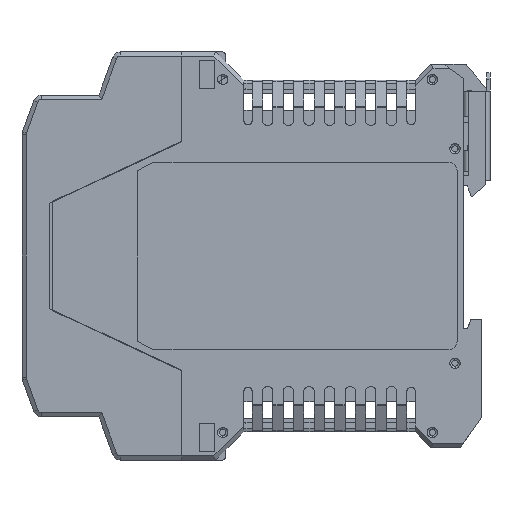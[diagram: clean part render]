
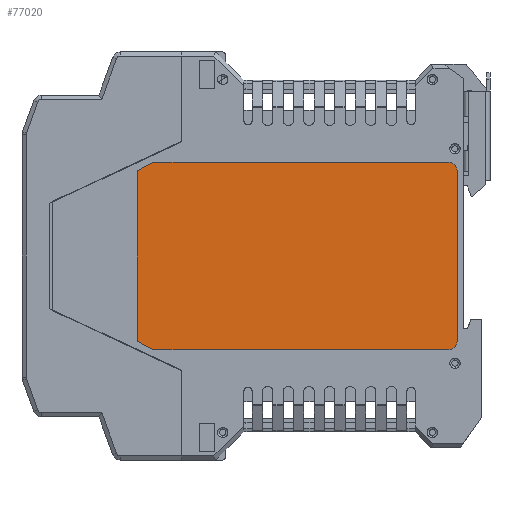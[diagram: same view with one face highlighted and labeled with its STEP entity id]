
A CAD part, left-side view. The second image highlights one B-rep face of the part: STEP entity #77020.
In plain terms, the highlighted planar face has unit normal (1, 0, 0).
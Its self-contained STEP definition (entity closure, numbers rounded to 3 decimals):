
#52973=DIRECTION('',(0.,0.,-1.));
#52974=VECTOR('',#52973,41.5);
#52975=CARTESIAN_POINT('',(-4.9,-40.2,20.75));
#52976=LINE('',#52975,#52974);
#52980=CARTESIAN_POINT('',(-4.9,-38.2,20.75));
#52981=DIRECTION('',(1.,0.,0.));
#52982=DIRECTION('',(0.,0.,1.));
#52983=AXIS2_PLACEMENT_3D('',#52980,#52981,#52982);
#52988=DIRECTION('',(0.,-1.,0.));
#52989=VECTOR('',#52988,71.5);
#52990=CARTESIAN_POINT('',(-4.9,33.3,22.75));
#52991=LINE('',#52990,#52989);
#52995=DIRECTION('',(0.,-0.891,0.454));
#52996=VECTOR('',#52995,4.489);
#52997=CARTESIAN_POINT('',(-4.9,37.3,20.712));
#52998=LINE('',#52997,#52996);
#53002=DIRECTION('',(0.,0.,1.));
#53003=VECTOR('',#53002,41.424);
#53004=CARTESIAN_POINT('',(-4.9,37.3,-20.712));
#53005=LINE('',#53004,#53003);
#53009=DIRECTION('',(0.,0.891,0.454));
#53010=VECTOR('',#53009,4.489);
#53011=CARTESIAN_POINT('',(-4.9,33.3,-22.75));
#53012=LINE('',#53011,#53010);
#53016=DIRECTION('',(0.,1.,0.));
#53017=VECTOR('',#53016,71.5);
#53018=CARTESIAN_POINT('',(-4.9,-38.2,-22.75));
#53019=LINE('',#53018,#53017);
#53023=CARTESIAN_POINT('',(-4.9,-38.2,-20.75));
#53024=DIRECTION('',(1.,0.,0.));
#53025=DIRECTION('',(0.,-1.,0.));
#53026=AXIS2_PLACEMENT_3D('',#53023,#53024,#53025);
#57457=CARTESIAN_POINT('',(-4.9,-40.2,20.75));
#57459=VERTEX_POINT('',#57457);
#58006=CARTESIAN_POINT('',(-4.9,-40.2,-20.75));
#58007=CARTESIAN_POINT('',(-4.9,-38.2,-22.75));
#58008=VERTEX_POINT('',#58006);
#58009=VERTEX_POINT('',#58007);
#58606=CARTESIAN_POINT('',(-4.9,33.3,22.75));
#58608=VERTEX_POINT('',#58606);
#58811=CARTESIAN_POINT('',(-4.9,33.3,-22.75));
#58812=CARTESIAN_POINT('',(-4.9,37.3,-20.712));
#58813=VERTEX_POINT('',#58811);
#58814=VERTEX_POINT('',#58812);
#60204=CARTESIAN_POINT('',(-4.9,-38.2,22.75));
#60205=VERTEX_POINT('',#60204);
#60242=CARTESIAN_POINT('',(-4.9,37.3,20.712));
#60243=VERTEX_POINT('',#60242);
#76998=CARTESIAN_POINT('',(-4.9,4630.033,2488.652));
#76999=DIRECTION('',(-1.,0.,0.));
#77000=DIRECTION('',(0.,0.,1.));
#77001=AXIS2_PLACEMENT_3D('',#76998,#76999,#77000);
#77002=PLANE('',#77001);
#77004=ORIENTED_EDGE('',*,*,#77003,.F.);
#77006=ORIENTED_EDGE('',*,*,#77005,.F.);
#77007=ORIENTED_EDGE('',*,*,#76988,.F.);
#77009=ORIENTED_EDGE('',*,*,#77008,.F.);
#77011=ORIENTED_EDGE('',*,*,#77010,.F.);
#77013=ORIENTED_EDGE('',*,*,#77012,.F.);
#77015=ORIENTED_EDGE('',*,*,#77014,.F.);
#77017=ORIENTED_EDGE('',*,*,#77016,.F.);
#77018=EDGE_LOOP('',(#77004,#77006,#77007,#77009,#77011,#77013,#77015,#77017));
#77019=FACE_OUTER_BOUND('',#77018,.F.);
#77020=ADVANCED_FACE('',(#77019),#77002,.F.);
#52984=CIRCLE('',#52983,2.);
#53027=CIRCLE('',#53026,2.);
#76988=EDGE_CURVE('',#58608,#60205,#52991,.T.);
#77003=EDGE_CURVE('',#57459,#58008,#52976,.T.);
#77005=EDGE_CURVE('',#60205,#57459,#52984,.T.);
#77008=EDGE_CURVE('',#60243,#58608,#52998,.T.);
#77010=EDGE_CURVE('',#58814,#60243,#53005,.T.);
#77012=EDGE_CURVE('',#58813,#58814,#53012,.T.);
#77014=EDGE_CURVE('',#58009,#58813,#53019,.T.);
#77016=EDGE_CURVE('',#58008,#58009,#53027,.T.);
